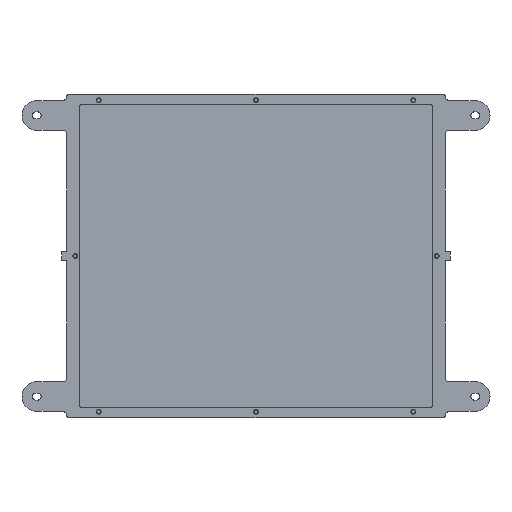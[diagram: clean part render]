
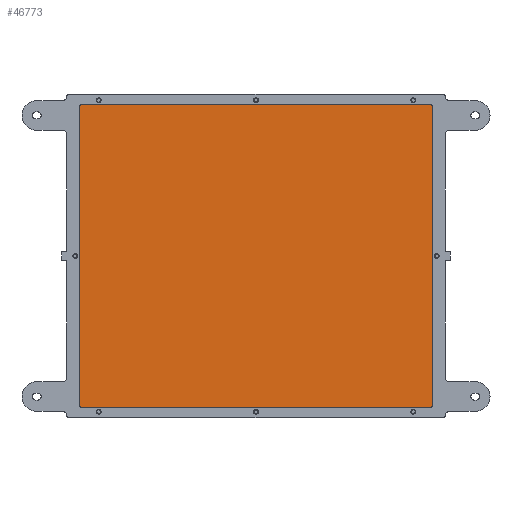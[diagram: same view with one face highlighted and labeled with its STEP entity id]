
A CAD part, front view. The second image highlights one B-rep face of the part: STEP entity #46773.
In plain terms, the highlighted planar face has unit normal (0, -1, 0).
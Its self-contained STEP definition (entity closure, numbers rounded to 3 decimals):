
#418 = ORIENTED_EDGE ( 'NONE', *, *, #22389, .F. ) ;
#1664 = LINE ( 'NONE', #5158, #47558 ) ;
#1864 = CARTESIAN_POINT ( 'NONE',  ( -202., 25.733, 498.5 ) ) ;
#1880 = CIRCLE ( 'NONE', #41709, 2. ) ;
#2962 = VERTEX_POINT ( 'NONE', #1864 ) ;
#3218 = DIRECTION ( 'NONE',  ( 0., 1., 0. ) ) ;
#3852 = CIRCLE ( 'NONE', #29881, 2. ) ;
#4469 = VERTEX_POINT ( 'NONE', #48582 ) ;
#5158 = CARTESIAN_POINT ( 'NONE',  ( 200., 25.733, 496.5 ) ) ;
#6470 = CARTESIAN_POINT ( 'NONE',  ( -202., 25.733, 498.5 ) ) ;
#6597 = ORIENTED_EDGE ( 'NONE', *, *, #10508, .F. ) ;
#7676 = VERTEX_POINT ( 'NONE', #25918 ) ;
#8395 = DIRECTION ( 'NONE',  ( -1., 0., 0. ) ) ;
#9066 = CARTESIAN_POINT ( 'NONE',  ( -204., 25.733, 153.5 ) ) ;
#9157 = CARTESIAN_POINT ( 'NONE',  ( -202., 25.733, 153.5 ) ) ;
#9663 = DIRECTION ( 'NONE',  ( 0., 0., -1. ) ) ;
#10310 = ORIENTED_EDGE ( 'NONE', *, *, #47476, .F. ) ;
#10318 = CARTESIAN_POINT ( 'NONE',  ( -202., 25.733, 496.5 ) ) ;
#10326 = VECTOR ( 'NONE', #8395, 1000. ) ;
#10508 = EDGE_CURVE ( 'NONE', #42459, #53754, #1664, .T. ) ;
#11717 = LINE ( 'NONE', #35046, #10326 ) ;
#11982 = CARTESIAN_POINT ( 'NONE',  ( -204., 25.733, 496.5 ) ) ;
#12175 = DIRECTION ( 'NONE',  ( 0., 1., 0. ) ) ;
#12531 = CIRCLE ( 'NONE', #53249, 2. ) ;
#12865 = ORIENTED_EDGE ( 'NONE', *, *, #36740, .F. ) ;
#13653 = DIRECTION ( 'NONE',  ( 0., 0., -1. ) ) ;
#13924 = EDGE_LOOP ( 'NONE', ( #30324, #38832, #12865, #55856, #418, #10310, #16741, #6597 ) ) ;
#14805 = DIRECTION ( 'NONE',  ( 0., 0., -1. ) ) ;
#15751 = CARTESIAN_POINT ( 'NONE',  ( 200., 25.733, 496.5 ) ) ;
#16463 = DIRECTION ( 'NONE',  ( 0., 0., 1. ) ) ;
#16741 = ORIENTED_EDGE ( 'NONE', *, *, #42670, .F. ) ;
#17658 = DIRECTION ( 'NONE',  ( 0., 1., 0. ) ) ;
#21049 = VECTOR ( 'NONE', #16463, 1000. ) ;
#22389 = EDGE_CURVE ( 'NONE', #27111, #46996, #3852, .T. ) ;
#24277 = AXIS2_PLACEMENT_3D ( 'NONE', #29863, #3218, #34343 ) ;
#25640 = VECTOR ( 'NONE', #33124, 1000. ) ;
#25918 = CARTESIAN_POINT ( 'NONE',  ( -204., 25.733, 496.5 ) ) ;
#26124 = EDGE_CURVE ( 'NONE', #2962, #31252, #37444, .T. ) ;
#27111 = VERTEX_POINT ( 'NONE', #45454 ) ;
#28555 = CARTESIAN_POINT ( 'NONE',  ( 200., 25.733, 153.5 ) ) ;
#29863 = CARTESIAN_POINT ( 'NONE',  ( -2., 25.733, 325. ) ) ;
#29881 = AXIS2_PLACEMENT_3D ( 'NONE', #9157, #40235, #13653 ) ;
#30324 = ORIENTED_EDGE ( 'NONE', *, *, #37536, .F. ) ;
#31252 = VERTEX_POINT ( 'NONE', #45872 ) ;
#33124 = DIRECTION ( 'NONE',  ( 1., 0., 0. ) ) ;
#33948 = PLANE ( 'NONE',  #24277 ) ;
#34343 = DIRECTION ( 'NONE',  ( 0., 0., 1. ) ) ;
#35046 = CARTESIAN_POINT ( 'NONE',  ( -202., 25.733, 151.5 ) ) ;
#36740 = EDGE_CURVE ( 'NONE', #7676, #2962, #12531, .T. ) ;
#37444 = LINE ( 'NONE', #6470, #25640 ) ;
#37536 = EDGE_CURVE ( 'NONE', #31252, #42459, #1880, .T. ) ;
#38753 = CARTESIAN_POINT ( 'NONE',  ( 198., 25.733, 496.5 ) ) ;
#38832 = ORIENTED_EDGE ( 'NONE', *, *, #26124, .F. ) ;
#40235 = DIRECTION ( 'NONE',  ( 0., 1., 0. ) ) ;
#41363 = DIRECTION ( 'NONE',  ( 0., 1., 0. ) ) ;
#41709 = AXIS2_PLACEMENT_3D ( 'NONE', #38753, #12175, #43230 ) ;
#42328 = FACE_OUTER_BOUND ( 'NONE', #13924, .T. ) ;
#42459 = VERTEX_POINT ( 'NONE', #15751 ) ;
#42670 = EDGE_CURVE ( 'NONE', #53754, #4469, #43105, .T. ) ;
#43105 = CIRCLE ( 'NONE', #44458, 2. ) ;
#43230 = DIRECTION ( 'NONE',  ( 0., 0., 1. ) ) ;
#44264 = CARTESIAN_POINT ( 'NONE',  ( 198., 25.733, 153.5 ) ) ;
#44458 = AXIS2_PLACEMENT_3D ( 'NONE', #44264, #17658, #48722 ) ;
#45454 = CARTESIAN_POINT ( 'NONE',  ( -202., 25.733, 151.5 ) ) ;
#45872 = CARTESIAN_POINT ( 'NONE',  ( 198., 25.733, 498.5 ) ) ;
#46773 = ADVANCED_FACE ( 'NONE', ( #42328 ), #33948, .F. ) ;
#46996 = VERTEX_POINT ( 'NONE', #9066 ) ;
#47476 = EDGE_CURVE ( 'NONE', #4469, #27111, #11717, .T. ) ;
#47558 = VECTOR ( 'NONE', #9663, 1000. ) ;
#48582 = CARTESIAN_POINT ( 'NONE',  ( 198., 25.733, 151.5 ) ) ;
#48722 = DIRECTION ( 'NONE',  ( 0., 0., -1. ) ) ;
#53249 = AXIS2_PLACEMENT_3D ( 'NONE', #10318, #41363, #14805 ) ;
#53754 = VERTEX_POINT ( 'NONE', #28555 ) ;
#54486 = EDGE_CURVE ( 'NONE', #46996, #7676, #56520, .T. ) ;
#55856 = ORIENTED_EDGE ( 'NONE', *, *, #54486, .F. ) ;
#56520 = LINE ( 'NONE', #11982, #21049 ) ;
